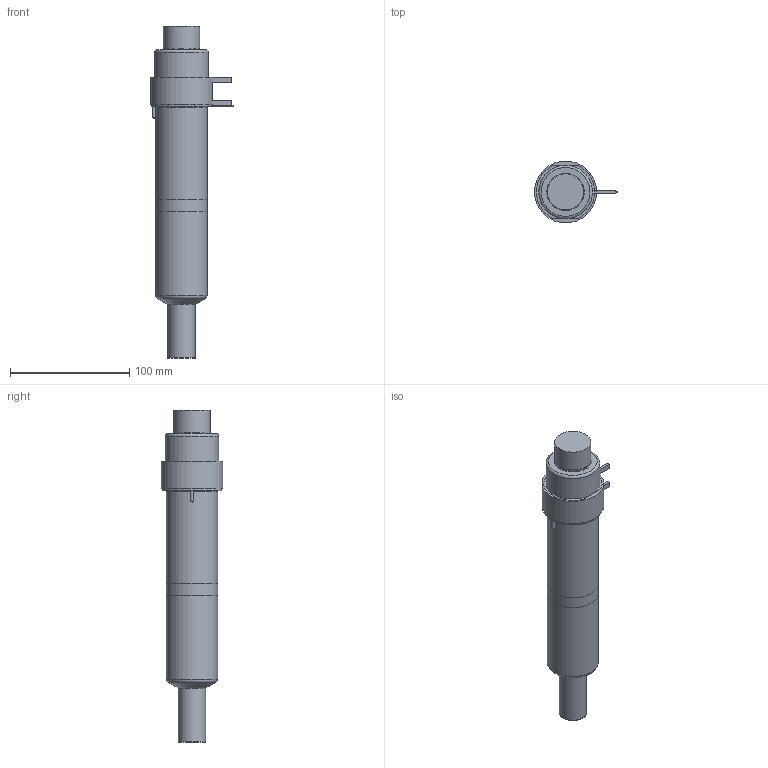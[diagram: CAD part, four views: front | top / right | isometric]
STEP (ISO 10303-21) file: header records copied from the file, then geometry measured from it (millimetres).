
FILE_DESCRIPTION(/* description */ (''),/* implementation_level */ '2;1');
FILE_NAME(/* name */ 'SXYCN27175P7F_200C_a',/* time_stamp */ '2016-03-04T10:55:29+13:00',/* author */ (''),/* organization */ (''),/* preprocessor_version */ 'ST-DEVELOPER v9',/* originating_system */ 'UGS - NX 4.0',/* authorisation */ '');
FILE_SCHEMA (('CONFIG_CONTROL_DESIGN'));
Length unit declared in the file: millimetre
Products named in the file (1): mattD74Dhe30
Bounding box: 69.6 x 52 x 278.76 mm (x, y, z)
Volume: 643764.4 mm3; surface area: 79279.9 mm2
Topology: 7 solids, 7 shells, 91 faces, 176 edges, 113 vertices
Faces by surface type: plane 43, cylinder 29, torus 9, cone 8, bspline 1, sphere 1
Full cylindrical faces by diameter (mm): 1 x3, 2.5 x2, 2.7 x1, 12 x2, 22.61 x1, 22.995 x2, 27.5 x1, 30 x1, 30.4 x1, 38.1 x2, 43 x2, 45 x1, 50 x1, 52 x1
Entity records: 2357 total; most frequent: CARTESIAN_POINT 540, DIRECTION 380, ORIENTED_EDGE 276, AXIS2_PLACEMENT_3D 165, EDGE_LOOP 138, EDGE_CURVE 138, VERTEX_POINT 109, ADVANCED_FACE 91
